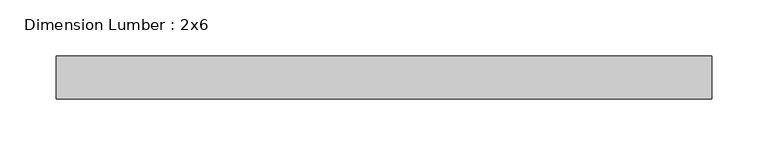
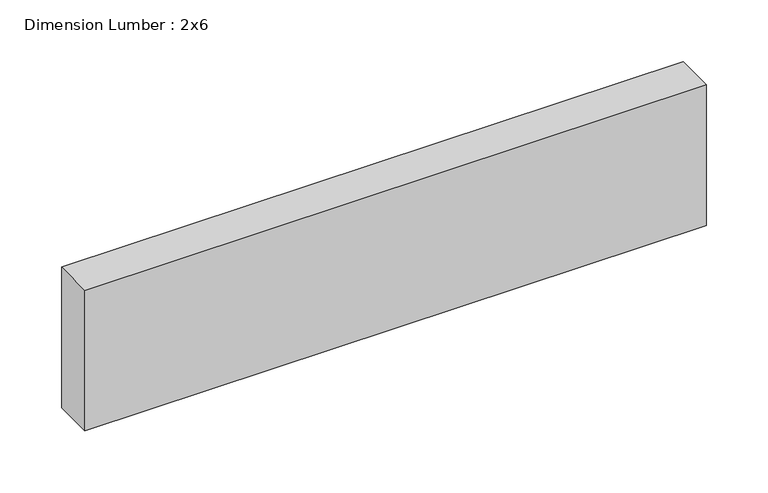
"""IFC4 building model written with IfcOpenShell, lengths in millimetres: beam geometry, Dimension Lumber : 2x6."""

from ifc_helpers import new_model, si_unit, frame, origin, place, context, project, spatial, polyline, outline, extrude, source, transform, mapped, element, save


def dimension_lumber_2x6_59b9ee6c(model_context):
    return source(origin(), model_context, "Body", "SweptSolid", [
        extrude(outline(polyline([(291.5137095, 19.05), (291.5137095, -19.05), (-291.5137095, -19.05), (-291.5137095, 19.05), (291.5137095, 19.05)])), frame((0.0, 0.0, -69.85), z_axis=(0.0, 0.0, 1.0), x_axis=(1.0, 0.0, 0.0)), (0.0, 0.0, 1.0), 139.7),
    ])


if __name__ == "__main__":
    model = new_model("IFC4")
    model_context = context("Model", 3, world=origin())
    ifc_project = project(units=[si_unit("LENGTHUNIT", "METRE", prefix="MILLI")], contexts=[model_context])
    site = spatial("IfcSite", under=ifc_project)
    building = spatial("IfcBuilding", under=site)
    placement = place(None, origin())
    dimension_lumber_2x6_shape = dimension_lumber_2x6_59b9ee6c(model_context)
    element("IfcBeam", 1, ObjectType="Dimension Lumber : 2x6", at=placement, inside=building, context=model_context, shape_type="MappedRepresentation", body=[
        mapped(dimension_lumber_2x6_shape, transform((0.0, 0.0, 0.0), x_axis=(1.0, 0.0, 0.0), y_axis=(0.0, 1.0, 0.0), z_axis=(0.0, 0.0, 1.0))),
    ])
    save(model, "model.ifc")
